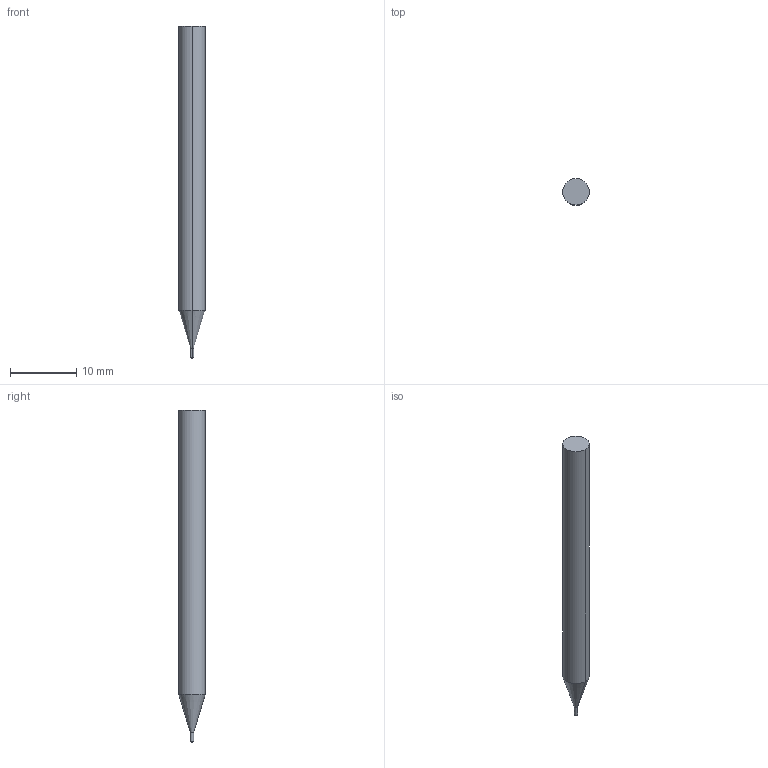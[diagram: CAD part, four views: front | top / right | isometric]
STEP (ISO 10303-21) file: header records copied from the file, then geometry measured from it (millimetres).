
FILE_DESCRIPTION((' '),'2;1');
FILE_NAME( '3MVRM0050R.10AH.stp', '2026-01-21T19:05:53', (' '), ('--- Datakit www.datakit.com---'), ' Datakit CrossCadWare V2025.4 Sep 19 2025', 'Mastercam 2027', ' ');
FILE_SCHEMA(('AUTOMOTIVE_DESIGN { 1 0 10303 214 1 1 1 1 }'));
Length unit declared in the file: inch
Products named in the file (1): 3MVRM0050R
Bounding box: 4 x 4 x 50 mm (x, y, z)
Volume: 565.3 mm3; surface area: 595 mm2
Topology: 1 solids, 1 shells, 10 faces, 18 edges, 10 vertices
Faces by surface type: cylinder 4, plane 2, torus 2, cone 2
Entity records: 318 total; most frequent: DIRECTION 60, CARTESIAN_POINT 43, ORIENTED_EDGE 36, AXIS2_PLACEMENT_3D 27, EDGE_CURVE 18, CIRCLE 12, VERTEX_POINT 10, EDGE_LOOP 10
